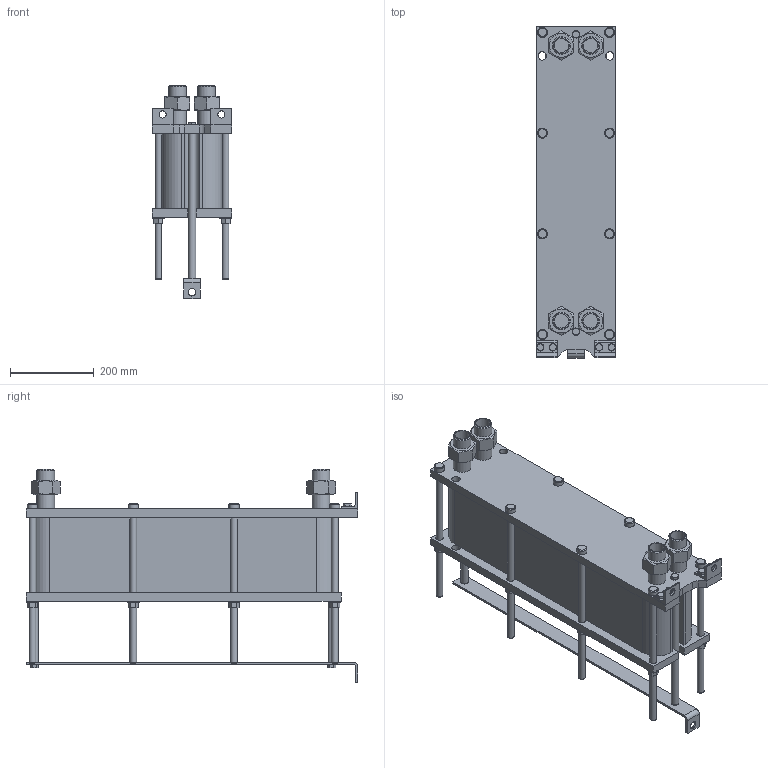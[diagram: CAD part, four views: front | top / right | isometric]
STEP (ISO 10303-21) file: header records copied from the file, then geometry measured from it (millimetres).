
FILE_DESCRIPTION(/* description */ (''),/* implementation_level */ '2;1');
FILE_NAME(/* name */ 'C:\Users\zhuro\Desktop\ENCO\TO\ЭН-008\ЭН-0,5-008-58-1.stp',/* time_stamp */ '2022-06-06T10:50:12+03:00',/* author */ ('zhuro'),/* organization */ (''),/* preprocessor_version */ 'ST-DEVELOPER v18.1',/* originating_system */ 'Autodesk Inventor 2022',/* authorisation */ '');
FILE_SCHEMA (('AUTOMOTIVE_DESIGN { 1 0 10303 214 3 1 1 }'));
Length unit declared in the file: millimetre
Products named in the file (1): ЭН-0,5-008-58-1
Bounding box: 190 x 790 x 507.4 mm (x, y, z)
Volume: 25122052.9 mm3; surface area: 1666253.9 mm2
Topology: 40 solids, 40 shells, 428 faces, 924 edges, 606 vertices
Faces by surface type: plane 273, cylinder 109, cone 40, torus 6
Full cylindrical faces by diameter (mm): 12 x6, 14 x2, 16 x20, 17 x8, 18 x19, 20 x5, 24 x8, 28 x8, 34.3 x8, 42.3 x8
Entity records: 15843 total; most frequent: CARTESIAN_POINT 5991, DIRECTION 1984, ORIENTED_EDGE 1848, EDGE_CURVE 924, AXIS2_PLACEMENT_3D 715, VERTEX_POINT 606, LINE 554, VECTOR 554
